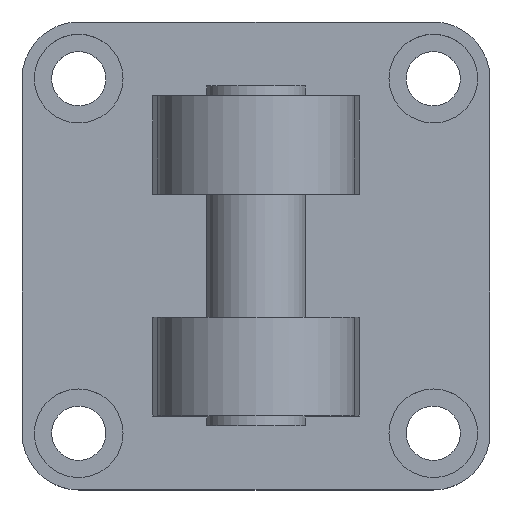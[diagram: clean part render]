
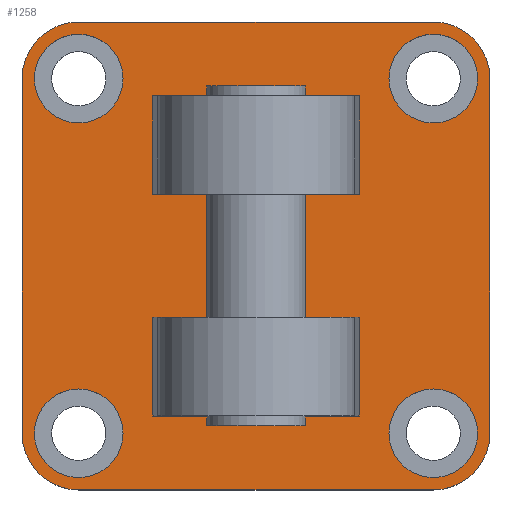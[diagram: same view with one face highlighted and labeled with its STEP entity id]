
A CAD part, top view. The second image highlights one B-rep face of the part: STEP entity #1258.
In plain terms, the highlighted planar face has unit normal (0, 0, 1).
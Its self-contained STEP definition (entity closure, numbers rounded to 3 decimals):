
#151=CARTESIAN_POINT('',(47.5,-36.0,14.));
#152=VERTEX_POINT('',#151);
#153=CARTESIAN_POINT('',(36.0,-47.5,14.));
#154=VERTEX_POINT('',#153);
#155=CARTESIAN_POINT('',(36.0,-36.0,14.));
#156=DIRECTION('',(0.0,0.0,-1.0));
#157=DIRECTION('',(0.707,-0.707,0.0));
#158=AXIS2_PLACEMENT_3D('',#155,#156,#157);
#159=CIRCLE('',#158,11.5);
#160=EDGE_CURVE('',#152,#154,#159,.T.);
#202=CARTESIAN_POINT('',(47.5,36.0,14.));
#203=VERTEX_POINT('',#202);
#210=CARTESIAN_POINT('',(47.5,36.0,14.));
#211=DIRECTION('',(0.0,-1.0,0.0));
#212=VECTOR('',#211,72.0);
#213=LINE('',#210,#212);
#214=EDGE_CURVE('',#203,#152,#213,.T.);
#338=CARTESIAN_POINT('',(-47.5,36.0,14.));
#339=VERTEX_POINT('',#338);
#340=CARTESIAN_POINT('',(-36.0,47.5,14.));
#341=VERTEX_POINT('',#340);
#342=CARTESIAN_POINT('',(-36.0,36.0,14.));
#343=DIRECTION('',(0.0,0.0,-1.0));
#344=DIRECTION('',(-0.707,0.707,0.0));
#345=AXIS2_PLACEMENT_3D('',#342,#343,#344);
#346=CIRCLE('',#345,11.5);
#347=EDGE_CURVE('',#339,#341,#346,.T.);
#371=CARTESIAN_POINT('',(36.0,47.5,14.));
#372=VERTEX_POINT('',#371);
#373=CARTESIAN_POINT('',(-36.0,47.5,14.));
#374=DIRECTION('',(1.0,0.0,0.0));
#375=VECTOR('',#374,72.0);
#376=LINE('',#373,#375);
#377=EDGE_CURVE('',#341,#372,#376,.T.);
#394=CARTESIAN_POINT('',(36.0,36.0,14.));
#395=DIRECTION('',(0.0,0.0,-1.0));
#396=DIRECTION('',(0.707,0.707,0.0));
#397=AXIS2_PLACEMENT_3D('',#394,#395,#396);
#398=CIRCLE('',#397,11.5);
#399=EDGE_CURVE('',#372,#203,#398,.T.);
#412=CARTESIAN_POINT('',(-36.0,-47.5,14.));
#413=VERTEX_POINT('',#412);
#414=CARTESIAN_POINT('',(-47.5,-36.0,14.));
#415=VERTEX_POINT('',#414);
#416=CARTESIAN_POINT('',(-36.0,-36.0,14.));
#417=DIRECTION('',(0.0,0.0,-1.0));
#418=DIRECTION('',(-0.707,-0.707,0.0));
#419=AXIS2_PLACEMENT_3D('',#416,#417,#418);
#420=CIRCLE('',#419,11.5);
#421=EDGE_CURVE('',#413,#415,#420,.T.);
#447=CARTESIAN_POINT('',(-47.5,-36.0,14.));
#448=DIRECTION('',(0.0,1.0,0.0));
#449=VECTOR('',#448,72.0);
#450=LINE('',#447,#449);
#451=EDGE_CURVE('',#415,#339,#450,.T.);
#510=CARTESIAN_POINT('',(45.,36.,14.));
#511=VERTEX_POINT('',#510);
#512=CARTESIAN_POINT('',(36.,36.,14.));
#513=DIRECTION('',(0.0,0.0,-1.0));
#514=DIRECTION('',(1.0,0.0,0.0));
#515=AXIS2_PLACEMENT_3D('',#512,#513,#514);
#516=CIRCLE('',#515,9.0);
#517=EDGE_CURVE('',#511,#511,#516,.T.);
#612=CARTESIAN_POINT('',(-27.,-36.0,14.));
#613=VERTEX_POINT('',#612);
#614=CARTESIAN_POINT('',(-36.,-36.0,14.));
#615=DIRECTION('',(0.0,0.0,-1.0));
#616=DIRECTION('',(1.0,0.0,0.0));
#617=AXIS2_PLACEMENT_3D('',#614,#615,#616);
#618=CIRCLE('',#617,9.0);
#619=EDGE_CURVE('',#613,#613,#618,.T.);
#714=CARTESIAN_POINT('',(-27.,36.0,14.));
#715=VERTEX_POINT('',#714);
#716=CARTESIAN_POINT('',(-36.,36.0,14.));
#717=DIRECTION('',(0.0,0.0,-1.0));
#718=DIRECTION('',(1.0,0.0,0.0));
#719=AXIS2_PLACEMENT_3D('',#716,#717,#718);
#720=CIRCLE('',#719,9.0);
#721=EDGE_CURVE('',#715,#715,#720,.T.);
#816=CARTESIAN_POINT('',(45.,-36.,14.));
#817=VERTEX_POINT('',#816);
#818=CARTESIAN_POINT('',(36.,-36.,14.));
#819=DIRECTION('',(0.0,0.0,-1.0));
#820=DIRECTION('',(1.0,0.0,0.0));
#821=AXIS2_PLACEMENT_3D('',#818,#819,#820);
#822=CIRCLE('',#821,9.0);
#823=EDGE_CURVE('',#817,#817,#822,.T.);
#919=CARTESIAN_POINT('',(20.98,-12.5,14.));
#920=VERTEX_POINT('',#919);
#929=CARTESIAN_POINT('',(-20.98,-12.5,14.));
#930=VERTEX_POINT('',#929);
#931=CARTESIAN_POINT('',(20.98,-12.5,14.));
#932=DIRECTION('',(-1.0,0.0,0.0));
#933=VECTOR('',#932,41.959);
#934=LINE('',#931,#933);
#935=EDGE_CURVE('',#920,#930,#934,.T.);
#965=CARTESIAN_POINT('',(20.98,12.5,14.));
#966=VERTEX_POINT('',#965);
#982=CARTESIAN_POINT('',(-20.98,12.5,14.));
#983=VERTEX_POINT('',#982);
#990=CARTESIAN_POINT('',(20.98,12.5,14.));
#991=DIRECTION('',(-1.0,0.0,0.0));
#992=VECTOR('',#991,41.959);
#993=LINE('',#990,#992);
#994=EDGE_CURVE('',#966,#983,#993,.T.);
#1016=CARTESIAN_POINT('',(20.98,-32.5,14.0));
#1017=VERTEX_POINT('',#1016);
#1024=CARTESIAN_POINT('',(20.98,-12.5,14.));
#1025=DIRECTION('',(0.0,-1.0,0.0));
#1026=VECTOR('',#1025,20.);
#1027=LINE('',#1024,#1026);
#1028=EDGE_CURVE('',#920,#1017,#1027,.T.);
#1064=CARTESIAN_POINT('',(-20.98,-32.5,14.0));
#1065=VERTEX_POINT('',#1064);
#1066=CARTESIAN_POINT('',(-20.98,-32.5,14.0));
#1067=DIRECTION('',(0.0,1.0,0.0));
#1068=VECTOR('',#1067,20.);
#1069=LINE('',#1066,#1068);
#1070=EDGE_CURVE('',#1065,#930,#1069,.T.);
#1089=CARTESIAN_POINT('',(20.98,-32.5,14.0));
#1090=DIRECTION('',(-1.0,0.0,0.0));
#1091=VECTOR('',#1090,41.959);
#1092=LINE('',#1089,#1091);
#1093=EDGE_CURVE('',#1017,#1065,#1092,.T.);
#1108=CARTESIAN_POINT('',(20.98,32.5,14.0));
#1109=VERTEX_POINT('',#1108);
#1110=CARTESIAN_POINT('',(20.98,32.5,14.0));
#1111=DIRECTION('',(0.0,-1.0,0.0));
#1112=VECTOR('',#1111,20.0);
#1113=LINE('',#1110,#1112);
#1114=EDGE_CURVE('',#1109,#966,#1113,.T.);
#1165=CARTESIAN_POINT('',(-20.98,32.5,14.0));
#1166=VERTEX_POINT('',#1165);
#1173=CARTESIAN_POINT('',(-20.98,12.5,14.));
#1174=DIRECTION('',(0.0,1.0,0.0));
#1175=VECTOR('',#1174,20.0);
#1176=LINE('',#1173,#1175);
#1177=EDGE_CURVE('',#983,#1166,#1176,.T.);
#1187=CARTESIAN_POINT('',(-20.98,32.5,14.0));
#1188=DIRECTION('',(1.0,0.0,0.0));
#1189=VECTOR('',#1188,41.959);
#1190=LINE('',#1187,#1189);
#1191=EDGE_CURVE('',#1166,#1109,#1190,.T.);
#1208=CARTESIAN_POINT('',(36.0,-47.5,14.));
#1209=DIRECTION('',(-1.0,0.0,0.0));
#1210=VECTOR('',#1209,72.0);
#1211=LINE('',#1208,#1210);
#1212=EDGE_CURVE('',#154,#413,#1211,.T.);
#1219=CARTESIAN_POINT('',(0.0,0.,14.));
#1220=DIRECTION('',(0.0,0.0,1.0));
#1221=DIRECTION('',(1.0,0.0,0.0));
#1222=AXIS2_PLACEMENT_3D('',#1219,#1220,#1221);
#1223=PLANE('',#1222);
#1224=ORIENTED_EDGE('',*,*,#160,.F.);
#1225=ORIENTED_EDGE('',*,*,#214,.F.);
#1226=ORIENTED_EDGE('',*,*,#399,.F.);
#1227=ORIENTED_EDGE('',*,*,#377,.F.);
#1228=ORIENTED_EDGE('',*,*,#347,.F.);
#1229=ORIENTED_EDGE('',*,*,#451,.F.);
#1230=ORIENTED_EDGE('',*,*,#421,.F.);
#1231=ORIENTED_EDGE('',*,*,#1212,.F.);
#1232=EDGE_LOOP('',(#1224,#1225,#1226,#1227,#1228,#1229,#1230,#1231));
#1233=FACE_OUTER_BOUND('',#1232,.T.);
#1234=ORIENTED_EDGE('',*,*,#517,.T.);
#1235=EDGE_LOOP('',(#1234));
#1236=FACE_BOUND('',#1235,.T.);
#1237=ORIENTED_EDGE('',*,*,#619,.T.);
#1238=EDGE_LOOP('',(#1237));
#1239=FACE_BOUND('',#1238,.T.);
#1240=ORIENTED_EDGE('',*,*,#721,.T.);
#1241=EDGE_LOOP('',(#1240));
#1242=FACE_BOUND('',#1241,.T.);
#1243=ORIENTED_EDGE('',*,*,#823,.T.);
#1244=EDGE_LOOP('',(#1243));
#1245=FACE_BOUND('',#1244,.T.);
#1246=ORIENTED_EDGE('',*,*,#1028,.T.);
#1247=ORIENTED_EDGE('',*,*,#1093,.T.);
#1248=ORIENTED_EDGE('',*,*,#1070,.T.);
#1249=ORIENTED_EDGE('',*,*,#935,.F.);
#1250=EDGE_LOOP('',(#1246,#1247,#1248,#1249));
#1251=FACE_BOUND('',#1250,.T.);
#1252=ORIENTED_EDGE('',*,*,#994,.T.);
#1253=ORIENTED_EDGE('',*,*,#1177,.T.);
#1254=ORIENTED_EDGE('',*,*,#1191,.T.);
#1255=ORIENTED_EDGE('',*,*,#1114,.T.);
#1256=EDGE_LOOP('',(#1252,#1253,#1254,#1255));
#1257=FACE_BOUND('',#1256,.T.);
#1258=ADVANCED_FACE('',(#1233,#1236,#1239,#1242,#1245,#1251,#1257),#1223,.T.);
